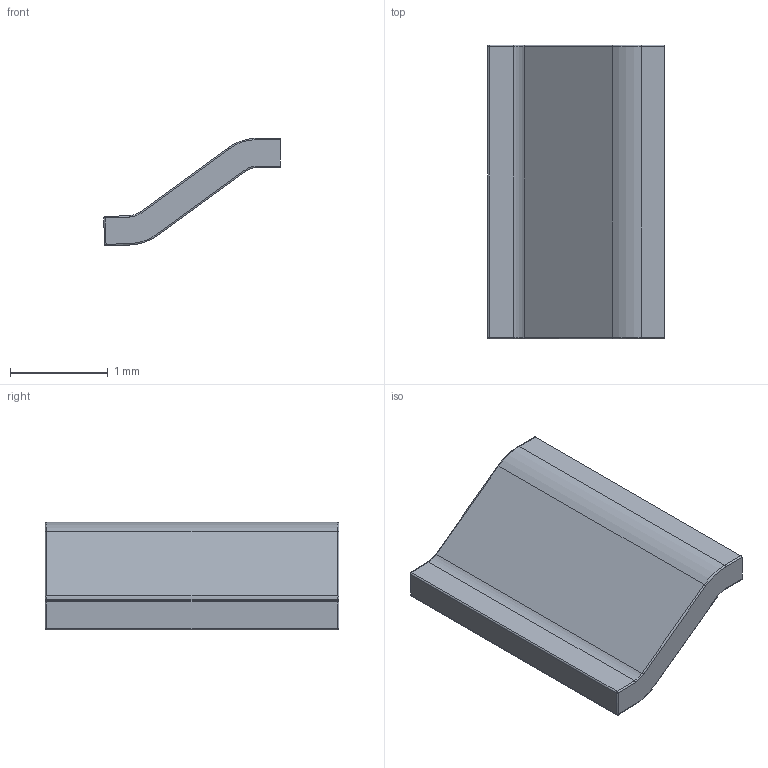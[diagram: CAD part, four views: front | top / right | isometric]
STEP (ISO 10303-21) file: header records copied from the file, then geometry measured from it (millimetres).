
FILE_DESCRIPTION(/* description */ ('STEP AP242 Edition 2','CAx-IF Rec.Pracs.---Representation and Presentation of Product Manufacturing Information (PMI)---4.0---2014-10-13','CAx-IF Rec.Pracs.---3D Tessellated Geometry---0.4---2014-09-14','2;1','CAx-IF Rec.Pracs.---User Defined Attributes---1.5---2016-08-15'),/* implementation_level */ '2;1');
FILE_NAME(/* name */ 'Assembly 1 - SOT-223_L6.5-W3.5-P2.30-LS7.0-BR~SOT-223-4P_L6.5-W3.5-H1.6-LS7.0-P2.30~nxQB',/* time_stamp */ '2026-04-02T09:55:23Z',/* author */ (''),/* organization */ (''),/* preprocessor_version */ 'ST-DEVELOPER v20',/* originating_system */ 'ONSHAPE BY PTC INC, 1.212',/* authorisation */ ' ');
FILE_SCHEMA (('AP242_MANAGED_MODEL_BASED_3D_ENGINEERING_MIM_LF { 1 0 10303 442 3 1 4 }'));
Length unit declared in the file: metre
Products named in the file (1): SOT-223_L6.5-W3.5-P2.30-LS7.0-BR~SOT-223-4P_L6.5-W3.5-H1.6-LS7.0-P2.3
0~nxQB
Bounding box: 1.8 x 3 x 1.1 mm (x, y, z)
Volume: 1.8 mm3; surface area: 15.2 mm2
Topology: 1 solids, 1 shells, 42 faces, 96 edges, 52 vertices
Faces by surface type: cylinder 20, plane 10, torus 8, sphere 4
Entity records: 1457 total; most frequent: DIRECTION 226, CARTESIAN_POINT 187, ORIENTED_EDGE 184, EDGE_CURVE 92, AXIS2_PLACEMENT_3D 91, VERTEX_POINT 52, CIRCLE 48, LINE 44
